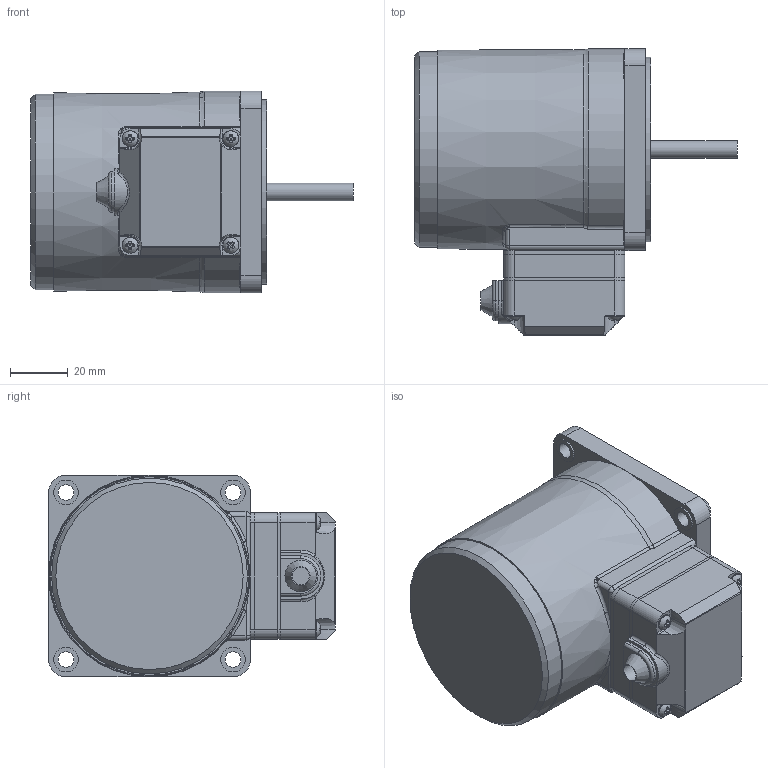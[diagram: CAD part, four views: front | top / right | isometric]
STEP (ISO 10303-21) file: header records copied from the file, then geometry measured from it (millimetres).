
FILE_DESCRIPTION((''),'2;1');
FILE_NAME('D:\김성묵\업무폴더\개발 파일\프로젝트 개발 AB등급\AC표준형 개발자료\90각 이하 표준형 개발\도면작성 자료\3D 도면\홈페이지용 3D 파일\15W MOTOR\T BOX TYPE\S7I15S_T.stp','2015-03-26T15:58:39',('smkim'),(''),'Autodesk Inventor 2012','Autodesk Inventor 2012','');
FILE_SCHEMA(('AUTOMOTIVE_DESIGN { 1 0 10303 214 1 1 1 1 }'));
Length unit declared in the file: millimetre
Products named in the file (8): S7I15S_TCE_1; S7I15GㅁTCE; 6W_T-BOX; 0351002403 70각 단자 BOX 하; 0351002301 70각 단자 BOX 상; 0409000703 CORD BUSH G; 552303400-M3XL34; S7_HOUSING S
Assembly tree (10 placements, depth 3):
  S7I15S_TCE_1
    S7I15GㅁTCE
    6W_T-BOX
      0351002403 70각 단자 BOX 하
      0351002301 70각 단자 BOX 상
      0409000703 CORD BUSH G
      552303400-M3XL34  x4
    S7_HOUSING S
Bounding box: 112 x 99.5 x 70 mm (x, y, z)
Volume: 344448.7 mm3; surface area: 57867.8 mm2
Topology: 11 solids, 11 shells, 366 faces, 938 edges, 609 vertices
Faces by surface type: plane 173, cylinder 123, bspline 35, torus 18, cone 15, sphere 2
Full cylindrical faces by diameter (mm): 3 x4, 3.5 x4, 3.8 x4, 5.5 x4, 5.6 x4, 6 x1, 8 x3, 8.5 x4, 28 x1, 64 x1, 68 x1
Entity records: 10288 total; most frequent: CARTESIAN_POINT 2721, DIRECTION 1526, ORIENTED_EDGE 1482, EDGE_CURVE 741, AXIS2_PLACEMENT_3D 579, VERTEX_POINT 505, EDGE_LOOP 394, VECTOR 368
